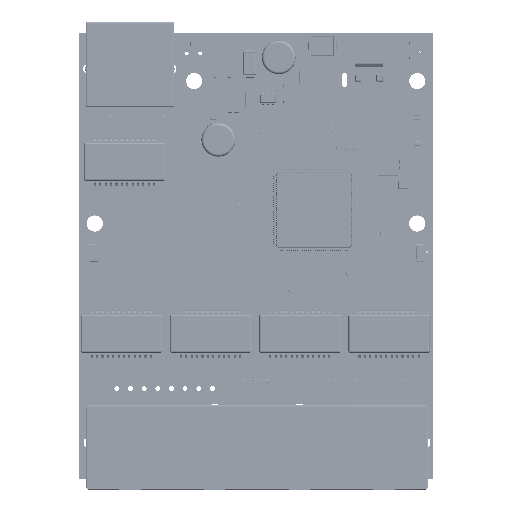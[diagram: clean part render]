
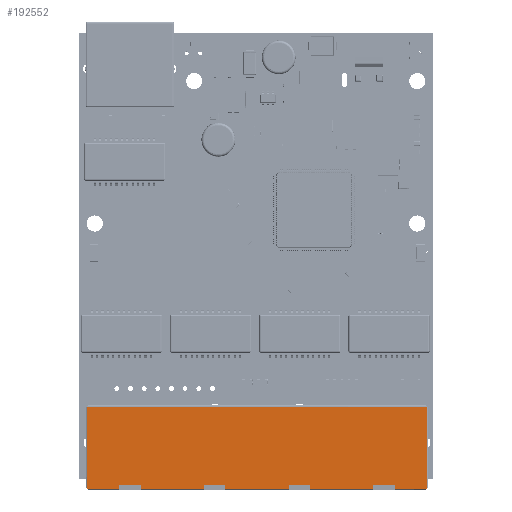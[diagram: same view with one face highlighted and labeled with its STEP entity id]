
A CAD part, top view. The second image highlights one B-rep face of the part: STEP entity #192552.
In plain terms, the highlighted planar face has unit normal (0, 0, 1).
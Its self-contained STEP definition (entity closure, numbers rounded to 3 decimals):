
#192552 = ADVANCED_FACE('',(#192553),#192715,.T.);
#192553 = FACE_BOUND('',#192554,.T.);
#192554 = EDGE_LOOP('',(#192555,#192565,#192573,#192581,#192589,#192597,
    #192605,#192613,#192621,#192629,#192637,#192645,#192653,#192661,
    #192669,#192677,#192685,#192693,#192701,#192709));
#192555 = ORIENTED_EDGE('',*,*,#192556,.T.);
#192556 = EDGE_CURVE('',#192557,#192559,#192561,.T.);
#192557 = VERTEX_POINT('',#192558);
#192558 = CARTESIAN_POINT('',(9.87,-5.124,
    13.2));
#192559 = VERTEX_POINT('',#192560);
#192560 = CARTESIAN_POINT('',(21.62,-5.124,
    13.2));
#192561 = LINE('',#192562,#192563);
#192562 = CARTESIAN_POINT('',(-31.629,-5.124,
    13.2));
#192563 = VECTOR('',#192564,1.);
#192564 = DIRECTION('',(1.,0.,0.));
#192565 = ORIENTED_EDGE('',*,*,#192566,.T.);
#192566 = EDGE_CURVE('',#192559,#192567,#192569,.T.);
#192567 = VERTEX_POINT('',#192568);
#192568 = CARTESIAN_POINT('',(21.62,-4.375,
    13.2));
#192569 = LINE('',#192570,#192571);
#192570 = CARTESIAN_POINT('',(21.62,2.5,
    13.2));
#192571 = VECTOR('',#192572,1.);
#192572 = DIRECTION('',(0.,1.,0.));
#192573 = ORIENTED_EDGE('',*,*,#192574,.T.);
#192574 = EDGE_CURVE('',#192567,#192575,#192577,.T.);
#192575 = VERTEX_POINT('',#192576);
#192576 = CARTESIAN_POINT('',(25.62,-4.375,
    13.2));
#192577 = LINE('',#192578,#192579);
#192578 = CARTESIAN_POINT('',(-0.005,-4.375,
    13.2));
#192579 = VECTOR('',#192580,1.);
#192580 = DIRECTION('',(1.,0.,0.));
#192581 = ORIENTED_EDGE('',*,*,#192582,.F.);
#192582 = EDGE_CURVE('',#192583,#192575,#192585,.T.);
#192583 = VERTEX_POINT('',#192584);
#192584 = CARTESIAN_POINT('',(25.62,-5.124,
    13.2));
#192585 = LINE('',#192586,#192587);
#192586 = CARTESIAN_POINT('',(25.62,2.5,
    13.2));
#192587 = VECTOR('',#192588,1.);
#192588 = DIRECTION('',(0.,1.,0.));
#192589 = ORIENTED_EDGE('',*,*,#192590,.T.);
#192590 = EDGE_CURVE('',#192583,#192591,#192593,.T.);
#192591 = VERTEX_POINT('',#192592);
#192592 = CARTESIAN_POINT('',(31.619,-5.124,
    13.2));
#192593 = LINE('',#192594,#192595);
#192594 = CARTESIAN_POINT('',(-31.629,-5.124,
    13.2));
#192595 = VECTOR('',#192596,1.);
#192596 = DIRECTION('',(1.,0.,0.));
#192597 = ORIENTED_EDGE('',*,*,#192598,.T.);
#192598 = EDGE_CURVE('',#192591,#192599,#192601,.T.);
#192599 = VERTEX_POINT('',#192600);
#192600 = CARTESIAN_POINT('',(31.619,10.124,
    13.2));
#192601 = LINE('',#192602,#192603);
#192602 = CARTESIAN_POINT('',(31.619,-5.124,
    13.2));
#192603 = VECTOR('',#192604,1.);
#192604 = DIRECTION('',(0.,1.,0.));
#192605 = ORIENTED_EDGE('',*,*,#192606,.T.);
#192606 = EDGE_CURVE('',#192599,#192607,#192609,.T.);
#192607 = VERTEX_POINT('',#192608);
#192608 = CARTESIAN_POINT('',(-31.629,10.124,
    13.2));
#192609 = LINE('',#192610,#192611);
#192610 = CARTESIAN_POINT('',(31.619,10.124,
    13.2));
#192611 = VECTOR('',#192612,1.);
#192612 = DIRECTION('',(-1.,-0.,-0.));
#192613 = ORIENTED_EDGE('',*,*,#192614,.T.);
#192614 = EDGE_CURVE('',#192607,#192615,#192617,.T.);
#192615 = VERTEX_POINT('',#192616);
#192616 = CARTESIAN_POINT('',(-31.629,-5.124,
    13.2));
#192617 = LINE('',#192618,#192619);
#192618 = CARTESIAN_POINT('',(-31.629,10.124,
    13.2));
#192619 = VECTOR('',#192620,1.);
#192620 = DIRECTION('',(0.,-1.,0.));
#192621 = ORIENTED_EDGE('',*,*,#192622,.T.);
#192622 = EDGE_CURVE('',#192615,#192623,#192625,.T.);
#192623 = VERTEX_POINT('',#192624);
#192624 = CARTESIAN_POINT('',(-25.63,-5.124,
    13.2));
#192625 = LINE('',#192626,#192627);
#192626 = CARTESIAN_POINT('',(-31.629,-5.124,
    13.2));
#192627 = VECTOR('',#192628,1.);
#192628 = DIRECTION('',(1.,0.,0.));
#192629 = ORIENTED_EDGE('',*,*,#192630,.T.);
#192630 = EDGE_CURVE('',#192623,#192631,#192633,.T.);
#192631 = VERTEX_POINT('',#192632);
#192632 = CARTESIAN_POINT('',(-25.63,-4.375,
    13.2));
#192633 = LINE('',#192634,#192635);
#192634 = CARTESIAN_POINT('',(-25.63,2.5,
    13.2));
#192635 = VECTOR('',#192636,1.);
#192636 = DIRECTION('',(0.,1.,0.));
#192637 = ORIENTED_EDGE('',*,*,#192638,.T.);
#192638 = EDGE_CURVE('',#192631,#192639,#192641,.T.);
#192639 = VERTEX_POINT('',#192640);
#192640 = CARTESIAN_POINT('',(-21.63,-4.375,
    13.2));
#192641 = LINE('',#192642,#192643);
#192642 = CARTESIAN_POINT('',(-0.005,-4.375,
    13.2));
#192643 = VECTOR('',#192644,1.);
#192644 = DIRECTION('',(1.,0.,0.));
#192645 = ORIENTED_EDGE('',*,*,#192646,.F.);
#192646 = EDGE_CURVE('',#192647,#192639,#192649,.T.);
#192647 = VERTEX_POINT('',#192648);
#192648 = CARTESIAN_POINT('',(-21.63,-5.124,
    13.2));
#192649 = LINE('',#192650,#192651);
#192650 = CARTESIAN_POINT('',(-21.63,2.5,
    13.2));
#192651 = VECTOR('',#192652,1.);
#192652 = DIRECTION('',(0.,1.,0.));
#192653 = ORIENTED_EDGE('',*,*,#192654,.T.);
#192654 = EDGE_CURVE('',#192647,#192655,#192657,.T.);
#192655 = VERTEX_POINT('',#192656);
#192656 = CARTESIAN_POINT('',(-9.88,-5.124,
    13.2));
#192657 = LINE('',#192658,#192659);
#192658 = CARTESIAN_POINT('',(-31.629,-5.124,
    13.2));
#192659 = VECTOR('',#192660,1.);
#192660 = DIRECTION('',(1.,0.,0.));
#192661 = ORIENTED_EDGE('',*,*,#192662,.T.);
#192662 = EDGE_CURVE('',#192655,#192663,#192665,.T.);
#192663 = VERTEX_POINT('',#192664);
#192664 = CARTESIAN_POINT('',(-9.88,-4.375,
    13.2));
#192665 = LINE('',#192666,#192667);
#192666 = CARTESIAN_POINT('',(-9.88,2.5,
    13.2));
#192667 = VECTOR('',#192668,1.);
#192668 = DIRECTION('',(0.,1.,0.));
#192669 = ORIENTED_EDGE('',*,*,#192670,.T.);
#192670 = EDGE_CURVE('',#192663,#192671,#192673,.T.);
#192671 = VERTEX_POINT('',#192672);
#192672 = CARTESIAN_POINT('',(-5.88,-4.375,
    13.2));
#192673 = LINE('',#192674,#192675);
#192674 = CARTESIAN_POINT('',(-0.005,-4.375,
    13.2));
#192675 = VECTOR('',#192676,1.);
#192676 = DIRECTION('',(1.,0.,0.));
#192677 = ORIENTED_EDGE('',*,*,#192678,.F.);
#192678 = EDGE_CURVE('',#192679,#192671,#192681,.T.);
#192679 = VERTEX_POINT('',#192680);
#192680 = CARTESIAN_POINT('',(-5.88,-5.124,
    13.2));
#192681 = LINE('',#192682,#192683);
#192682 = CARTESIAN_POINT('',(-5.88,2.5,
    13.2));
#192683 = VECTOR('',#192684,1.);
#192684 = DIRECTION('',(0.,1.,0.));
#192685 = ORIENTED_EDGE('',*,*,#192686,.T.);
#192686 = EDGE_CURVE('',#192679,#192687,#192689,.T.);
#192687 = VERTEX_POINT('',#192688);
#192688 = CARTESIAN_POINT('',(5.87,-5.124,
    13.2));
#192689 = LINE('',#192690,#192691);
#192690 = CARTESIAN_POINT('',(-31.629,-5.124,
    13.2));
#192691 = VECTOR('',#192692,1.);
#192692 = DIRECTION('',(1.,0.,0.));
#192693 = ORIENTED_EDGE('',*,*,#192694,.T.);
#192694 = EDGE_CURVE('',#192687,#192695,#192697,.T.);
#192695 = VERTEX_POINT('',#192696);
#192696 = CARTESIAN_POINT('',(5.87,-4.375,
    13.2));
#192697 = LINE('',#192698,#192699);
#192698 = CARTESIAN_POINT('',(5.87,2.5,
    13.2));
#192699 = VECTOR('',#192700,1.);
#192700 = DIRECTION('',(0.,1.,0.));
#192701 = ORIENTED_EDGE('',*,*,#192702,.T.);
#192702 = EDGE_CURVE('',#192695,#192703,#192705,.T.);
#192703 = VERTEX_POINT('',#192704);
#192704 = CARTESIAN_POINT('',(9.87,-4.375,
    13.2));
#192705 = LINE('',#192706,#192707);
#192706 = CARTESIAN_POINT('',(-0.005,-4.375,
    13.2));
#192707 = VECTOR('',#192708,1.);
#192708 = DIRECTION('',(1.,0.,0.));
#192709 = ORIENTED_EDGE('',*,*,#192710,.F.);
#192710 = EDGE_CURVE('',#192557,#192703,#192711,.T.);
#192711 = LINE('',#192712,#192713);
#192712 = CARTESIAN_POINT('',(9.87,2.5,
    13.2));
#192713 = VECTOR('',#192714,1.);
#192714 = DIRECTION('',(0.,1.,0.));
#192715 = PLANE('',#192716);
#192716 = AXIS2_PLACEMENT_3D('',#192717,#192718,#192719);
#192717 = CARTESIAN_POINT('',(-0.005,2.5,
    13.2));
#192718 = DIRECTION('',(0.,0.,1.));
#192719 = DIRECTION('',(1.,0.,0.));
